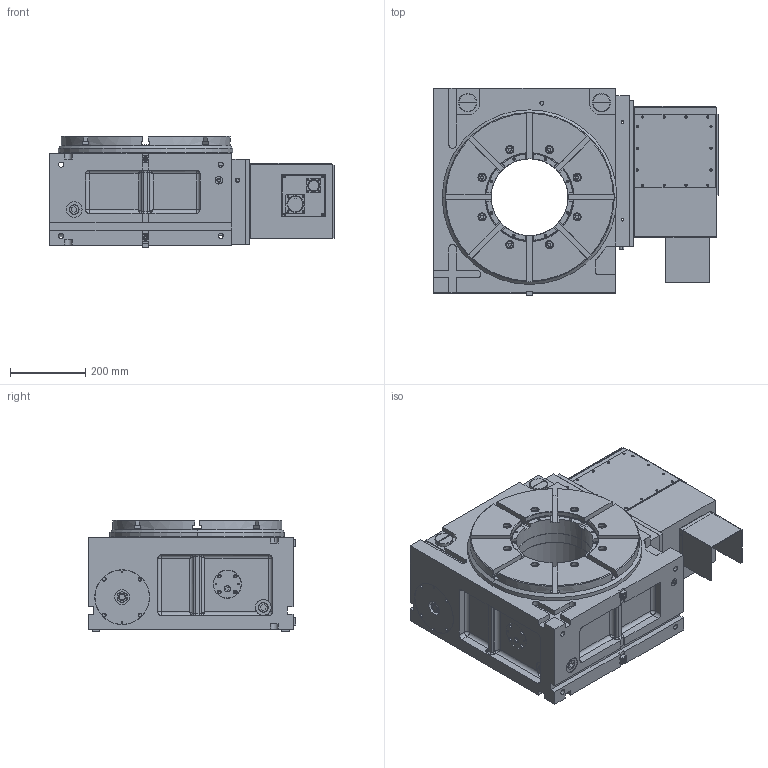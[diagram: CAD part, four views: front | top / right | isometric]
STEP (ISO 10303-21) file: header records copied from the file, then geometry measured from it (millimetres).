
FILE_DESCRIPTION (( 'STEP AP203' ), '1' );
FILE_NAME ('15161547-MDH453R-10.STEP', '2020-11-25T22:49:59', ( '' ), ( '' ), 'SwSTEP 2.0', 'SolidWorks 2019', '' );
FILE_SCHEMA (( 'CONFIG_CONTROL_DESIGN' ));
Length unit declared in the file: millimetre
Products named in the file (1): 15161547-MDH453R-10
Bounding box: 757.2 x 552 x 297.5 mm (x, y, z)
Surface area: 2239765.1 mm2 (no closed solid volume)
Topology: 0 solids, 89 shells, 1186 faces, 3809 edges, 2675 vertices
Faces by surface type: plane 528, cylinder 510, cone 124, bspline 8, torus 8, sphere 8
Entity records: 43813 total; most frequent: CARTESIAN_POINT 9143, DIRECTION 7724, ORIENTED_EDGE 6169, EDGE_CURVE 3793, AXIS2_PLACEMENT_3D 2919, VERTEX_POINT 2675, VECTOR 1886, LINE 1886
